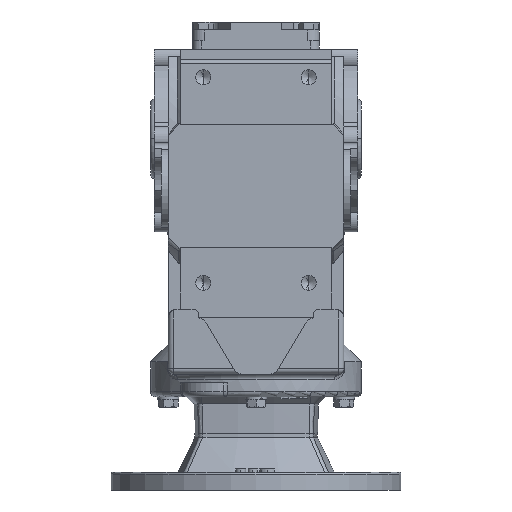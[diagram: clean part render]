
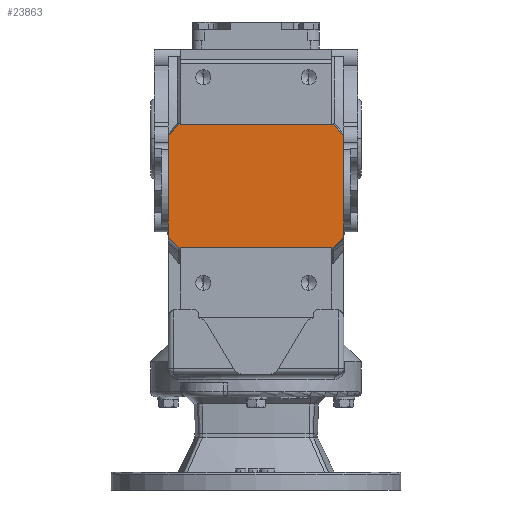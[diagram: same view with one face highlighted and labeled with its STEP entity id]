
A CAD part, front view. The second image highlights one B-rep face of the part: STEP entity #23863.
In plain terms, the highlighted planar face has unit normal (0, -1, 0).
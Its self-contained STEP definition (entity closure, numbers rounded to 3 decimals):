
#151 = CARTESIAN_POINT ( 'NONE',  ( -60., -97., 8. ) ) ;
#155 = PLANE ( 'NONE',  #17431 ) ;
#157 = DIRECTION ( 'NONE',  ( 0., 1., 0. ) ) ;
#158 = DIRECTION ( 'NONE',  ( -1., 0., 0. ) ) ;
#2954 = CARTESIAN_POINT ( 'NONE',  ( 50., -97., 2. ) ) ;
#2957 = CARTESIAN_POINT ( 'NONE',  ( 50., -97., -56. ) ) ;
#6001 = CARTESIAN_POINT ( 'NONE',  ( -43.011, -97., -62. ) ) ;
#6005 = CARTESIAN_POINT ( 'NONE',  ( -50., -97., -56. ) ) ;
#6010 = CARTESIAN_POINT ( 'NONE',  ( 44., -97., -62. ) ) ;
#6012 = CARTESIAN_POINT ( 'NONE',  ( 43.011, -97., -62. ) ) ;
#6017 = CARTESIAN_POINT ( 'NONE',  ( -50., -97., 2. ) ) ;
#6148 = CARTESIAN_POINT ( 'NONE',  ( -44., -97., 8. ) ) ;
#6150 = CARTESIAN_POINT ( 'NONE',  ( 43., -97., 8. ) ) ;
#6152 = CARTESIAN_POINT ( 'NONE',  ( 44., -97., 8. ) ) ;
#6161 = CARTESIAN_POINT ( 'NONE',  ( -43., -97., 8. ) ) ;
#6169 = CARTESIAN_POINT ( 'NONE',  ( -44., -97., -62. ) ) ;
#6820 = CARTESIAN_POINT ( 'NONE',  ( 50., -97., 8. ) ) ;
#6847 = DIRECTION ( 'NONE',  ( 0., 0., -1. ) ) ;
#8495 = EDGE_CURVE ( 'NONE', #54375, #54378, #22533, .T. ) ;
#8684 = EDGE_CURVE ( 'NONE', #65186, #64958, #22672, .T. ) ;
#8700 = EDGE_CURVE ( 'NONE', #64978, #64961, #22689, .T. ) ;
#8702 = EDGE_CURVE ( 'NONE', #64961, #65186, #22695, .T. ) ;
#8704 = EDGE_CURVE ( 'NONE', #64958, #64970, #22698, .T. ) ;
#8706 = EDGE_CURVE ( 'NONE', #64970, #64973, #22691, .T. ) ;
#8708 = EDGE_CURVE ( 'NONE', #64973, #54378, #22704, .T. ) ;
#8710 = EDGE_CURVE ( 'NONE', #54375, #65151, #22702, .T. ) ;
#8713 = EDGE_CURVE ( 'NONE', #65151, #65185, #22709, .T. ) ;
#8715 = EDGE_CURVE ( 'NONE', #65189, #65185, #22707, .T. ) ;
#8718 = EDGE_CURVE ( 'NONE', #65146, #65189, #22714, .T. ) ;
#8720 = EDGE_CURVE ( 'NONE', #65146, #64978, #22717, .T. ) ;
#17431 = AXIS2_PLACEMENT_3D ( 'NONE', #151, #157, #158 ) ;
#18443 = FACE_OUTER_BOUND ( 'NONE', #63583, .T. ) ;
#22533 = LINE ( 'NONE', #6820, #22534 ) ;
#22534 = VECTOR ( 'NONE', #6847, 1000. ) ;
#22672 = LINE ( 'NONE', #34770, #22675 ) ;
#22675 = VECTOR ( 'NONE', #35045, 1000. ) ;
#22677 = VECTOR ( 'NONE', #34448, 1000. ) ;
#22689 = LINE ( 'NONE', #34457, #22677 ) ;
#22691 = LINE ( 'NONE', #34482, #22700 ) ;
#22695 = LINE ( 'NONE', #34477, #22697 ) ;
#22697 = VECTOR ( 'NONE', #34193, 1000. ) ;
#22698 = LINE ( 'NONE', #34884, #22701 ) ;
#22700 = VECTOR ( 'NONE', #34497, 1000. ) ;
#22701 = VECTOR ( 'NONE', #34638, 1000. ) ;
#22702 = LINE ( 'NONE', #34562, #22705 ) ;
#22704 = LINE ( 'NONE', #34639, #22706 ) ;
#22705 = VECTOR ( 'NONE', #34573, 1000. ) ;
#22706 = VECTOR ( 'NONE', #34517, 1000. ) ;
#22707 = LINE ( 'NONE', #34575, #22715 ) ;
#22709 = LINE ( 'NONE', #34538, #22710 ) ;
#22710 = VECTOR ( 'NONE', #34892, 1000. ) ;
#22713 = VECTOR ( 'NONE', #34862, 1000. ) ;
#22714 = LINE ( 'NONE', #34571, #22713 ) ;
#22715 = VECTOR ( 'NONE', #34896, 1000. ) ;
#22717 = LINE ( 'NONE', #34863, #22721 ) ;
#22721 = VECTOR ( 'NONE', #34582, 1000. ) ;
#23863 = ADVANCED_FACE ( 'NONE', ( #18443 ), #155, .F. ) ;
#26030 = ORIENTED_EDGE ( 'NONE', *, *, #8700, .T. ) ;
#26031 = ORIENTED_EDGE ( 'NONE', *, *, #8702, .T. ) ;
#26032 = ORIENTED_EDGE ( 'NONE', *, *, #8684, .T. ) ;
#26033 = ORIENTED_EDGE ( 'NONE', *, *, #8704, .T. ) ;
#26034 = ORIENTED_EDGE ( 'NONE', *, *, #8706, .T. ) ;
#26035 = ORIENTED_EDGE ( 'NONE', *, *, #8708, .T. ) ;
#26036 = ORIENTED_EDGE ( 'NONE', *, *, #8495, .F. ) ;
#26037 = ORIENTED_EDGE ( 'NONE', *, *, #8710, .T. ) ;
#26038 = ORIENTED_EDGE ( 'NONE', *, *, #8713, .T. ) ;
#26039 = ORIENTED_EDGE ( 'NONE', *, *, #8715, .F. ) ;
#26040 = ORIENTED_EDGE ( 'NONE', *, *, #8718, .F. ) ;
#26041 = ORIENTED_EDGE ( 'NONE', *, *, #8720, .T. ) ;
#34193 = DIRECTION ( 'NONE',  ( 0.707, 0., -0.707 ) ) ;
#34448 = DIRECTION ( 'NONE',  ( 0., 0., -1. ) ) ;
#34457 = CARTESIAN_POINT ( 'NONE',  ( -50., -97., -62. ) ) ;
#34477 = CARTESIAN_POINT ( 'NONE',  ( -44., -97., -62. ) ) ;
#34482 = CARTESIAN_POINT ( 'NONE',  ( -60., -97., -62. ) ) ;
#34497 = DIRECTION ( 'NONE',  ( 1., 0., 0. ) ) ;
#34517 = DIRECTION ( 'NONE',  ( 0.707, 0., 0.707 ) ) ;
#34538 = CARTESIAN_POINT ( 'NONE',  ( -60., -97., 8. ) ) ;
#34562 = CARTESIAN_POINT ( 'NONE',  ( 50., -97., 2. ) ) ;
#34571 = CARTESIAN_POINT ( 'NONE',  ( -60., -97., 8. ) ) ;
#34573 = DIRECTION ( 'NONE',  ( -0.707, 0., 0.707 ) ) ;
#34575 = CARTESIAN_POINT ( 'NONE',  ( -60., -97., 8. ) ) ;
#34582 = DIRECTION ( 'NONE',  ( -0.707, 0., -0.707 ) ) ;
#34638 = DIRECTION ( 'NONE',  ( 1., 0., 0. ) ) ;
#34639 = CARTESIAN_POINT ( 'NONE',  ( 50., -97., -56. ) ) ;
#34770 = CARTESIAN_POINT ( 'NONE',  ( -60., -97., -62. ) ) ;
#34862 = DIRECTION ( 'NONE',  ( 1., 0., 0. ) ) ;
#34863 = CARTESIAN_POINT ( 'NONE',  ( -44., -97., 8. ) ) ;
#34884 = CARTESIAN_POINT ( 'NONE',  ( -60., -97., -62. ) ) ;
#34892 = DIRECTION ( 'NONE',  ( -1., 0., 0. ) ) ;
#34896 = DIRECTION ( 'NONE',  ( 1., 0., 0. ) ) ;
#35045 = DIRECTION ( 'NONE',  ( 1., 0., 0. ) ) ;
#54375 = VERTEX_POINT ( 'NONE', #2954 ) ;
#54378 = VERTEX_POINT ( 'NONE', #2957 ) ;
#63583 = EDGE_LOOP ( 'NONE', ( #26030, #26031, #26032, #26033, #26034, #26035, #26036, #26037, #26038, #26039, #26040, #26041 ) ) ;
#64958 = VERTEX_POINT ( 'NONE', #6001 ) ;
#64961 = VERTEX_POINT ( 'NONE', #6005 ) ;
#64970 = VERTEX_POINT ( 'NONE', #6012 ) ;
#64973 = VERTEX_POINT ( 'NONE', #6010 ) ;
#64978 = VERTEX_POINT ( 'NONE', #6017 ) ;
#65146 = VERTEX_POINT ( 'NONE', #6148 ) ;
#65151 = VERTEX_POINT ( 'NONE', #6152 ) ;
#65185 = VERTEX_POINT ( 'NONE', #6150 ) ;
#65186 = VERTEX_POINT ( 'NONE', #6169 ) ;
#65189 = VERTEX_POINT ( 'NONE', #6161 ) ;
